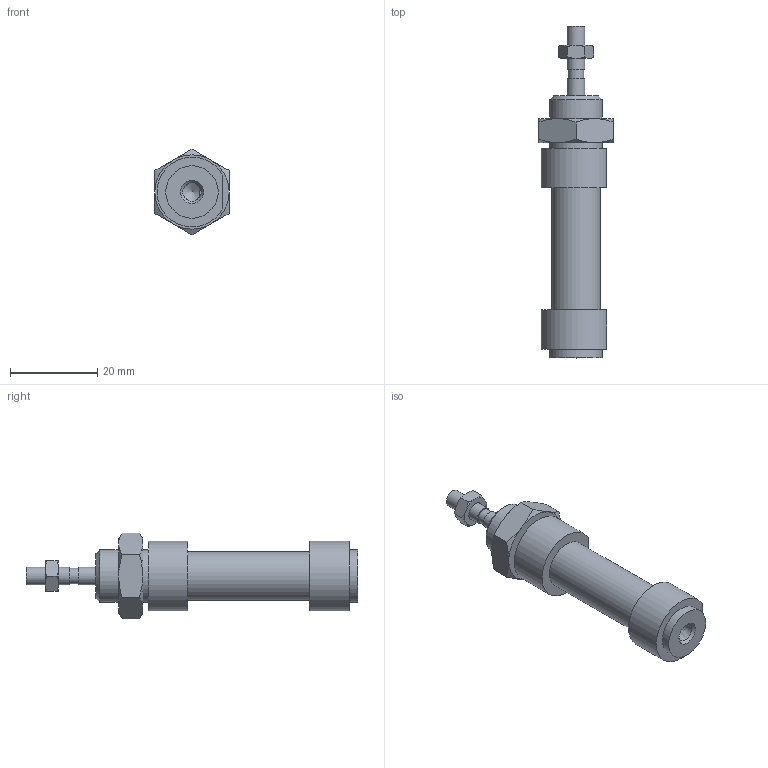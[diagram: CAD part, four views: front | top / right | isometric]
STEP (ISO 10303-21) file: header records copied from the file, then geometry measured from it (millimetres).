
FILE_DESCRIPTION((''),'2;1');
FILE_NAME('I:\Area Tecnica\Disegni\VARIE-3D\Componenti\1280\1281_##_####_#\1281_10_0000.iam.stp','2009-06-04T09:37:22',(''),(''),'Autodesk Inventor 2010','Autodesk Inventor 2010','');
FILE_SCHEMA(('AUTOMOTIVE_DESIGN { 1 0 10303 214 1 1 1 1 }'));
Length unit declared in the file: millimetre
Products named in the file (5): 1281_10_0000; C1281_10_0; S1280_10_0; 1200_10_05; 1200_10_06
Assembly tree (4 placements, depth 2):
  1281_10_0000
    C1281_10_0
    S1280_10_0
    1200_10_05
    1200_10_06
Bounding box: 17 x 76 x 19.63 mm (x, y, z)
Volume: 8766.2 mm3; surface area: 4850.8 mm2
Topology: 4 solids, 4 shells, 79 faces, 165 edges, 100 vertices
Faces by surface type: plane 29, cone 26, bspline 15, cylinder 9
Full cylindrical faces by diameter (mm): 3.5 x1, 4 x3, 11.2 x1, 12 x2
Entity records: 2316 total; most frequent: CARTESIAN_POINT 655, DIRECTION 294, ORIENTED_EDGE 274, EDGE_CURVE 137, AXIS2_PLACEMENT_3D 135, EDGE_LOOP 114, VERTEX_POINT 93, STYLED_ITEM 83
